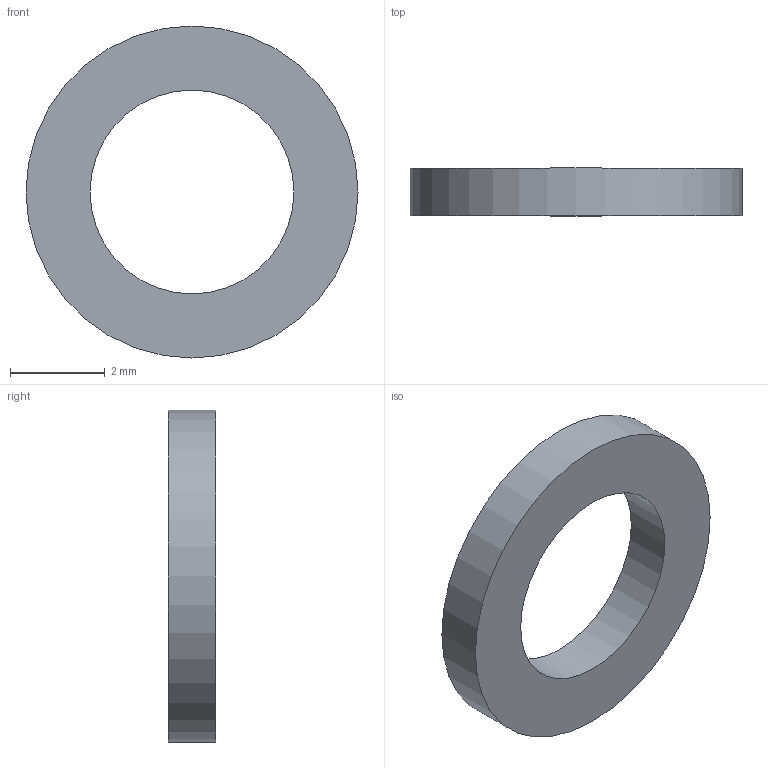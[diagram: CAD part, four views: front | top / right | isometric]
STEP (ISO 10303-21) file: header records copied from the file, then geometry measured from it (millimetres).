
FILE_DESCRIPTION(('Open CASCADE Model'),'2;1');
FILE_NAME('Open CASCADE Shape Model','2026-10-06T03:35:42',('Author'),( 'Open CASCADE'),'Open CASCADE STEP processor 7.8','Open CASCADE 7.8' ,'Unknown');
FILE_SCHEMA(('AUTOMOTIVE_DESIGN { 1 0 10303 214 1 1 1 1 }'));
Length unit declared in the file: millimetre
Products named in the file (1): Open CASCADE STEP translator 7.8 7
Bounding box: 7 x 1 x 7 mm (x, y, z)
Volume: 24 mm3; surface area: 83.4 mm2
Topology: 1 solids, 1 shells, 4 faces, 6 edges, 4 vertices
Faces by surface type: cylinder 2, plane 2
Full cylindrical faces by diameter (mm): 4.3 x1, 7 x1
Entity records: 189 total; most frequent: CARTESIAN_POINT 33, DIRECTION 31, ORIENTED_EDGE 12, PCURVE 12, DEFINITIONAL_REPRESENTATION 12, LINE 10, VECTOR 10, AXIS2_PLACEMENT_3D 9
